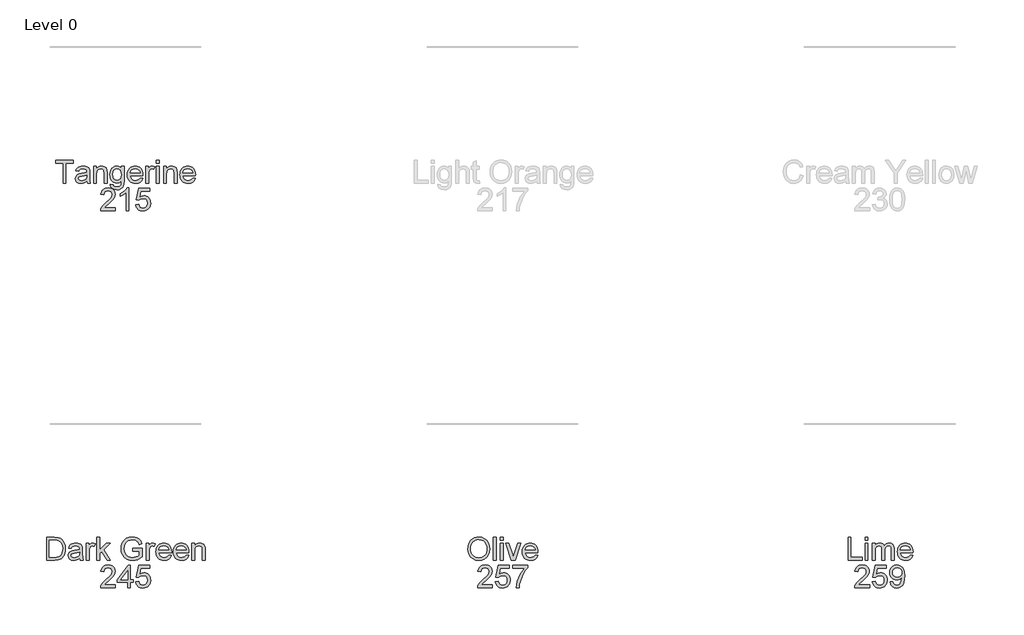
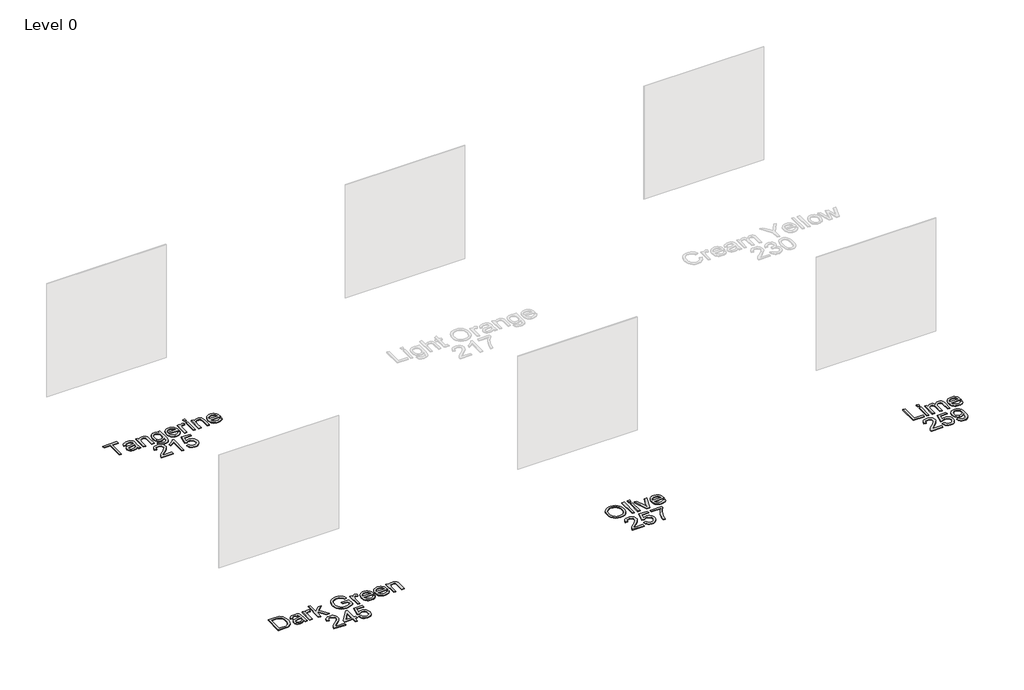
# One storey, part 10 of 15: 4 proxies.
"""IFC4 building model written with IfcOpenShell, lengths in millimetres."""

from ifc_helpers import new_model, si_unit, origin, origin_with_axes, place, context, project, spatial, polyline, outline, extrude, element, save

model = new_model("IFC4")

# Units and contexts
model_context = context("Model", 3, world=origin())
ifc_project = project(units=[si_unit("LENGTHUNIT", "METRE", prefix="MILLI")], contexts=[model_context])

# Site, building, storey
site = spatial("IfcSite", under=ifc_project)
building = spatial("IfcBuilding", under=site)
storey = spatial("IfcBuildingStorey", under=building, Name="Level 0", Elevation=0.0)

# Proxies
placement = place(None, origin())
element("IfcBuildingElementProxy", 1, Name="300mm Arial", ObjectType="300mm Arial", at=placement, inside=storey, context=model_context, shape_type="SweptSolid", body=[
    extrude(outline(polyline([(10130.2507748, -27011.9454346), (10130.2507748, -26710.5765041), (10167.9218911, -26710.5765041), (10167.9218911, -26974.2743182), (10318.6063563, -26974.2743182), (10318.6063563, -27011.9454346), (10130.2507748, -27011.9454346)])), origin_with_axes(), (0.0, 0.0, 1.0), 10.0),
    extrude(outline(polyline([(10356.2774726, -27011.9454346), (10356.2774726, -26790.6276263), (10393.9485889, -26790.6276263), (10393.9485889, -27011.9454346), (10356.2774726, -27011.9454346)])), origin_with_axes(), (0.0, 0.0, 1.0), 10.0),
    extrude(outline(polyline([(10356.2774726, -26748.2476204), (10356.2774726, -26710.5765041), (10393.9485889, -26710.5765041), (10393.9485889, -26748.2476204), (10356.2774726, -26748.2476204)])), origin_with_axes(), (0.0, 0.0, 1.0), 10.0),
    extrude(outline(polyline([(10450.4552634, -27011.9454346), (10450.4552634, -26790.6276263), (10488.1263797, -26790.6276263), (10488.1263797, -26827.0479438), (10499.4571451, -26810.31851), (10514.0252722, -26797.212714), (10531.33412, -26788.742231), (10550.8870481, -26785.9187367), (10571.8379277, -26788.7974133), (10588.6317408, -26797.4334432), (10601.1765168, -26811.2566091), (10609.3802853, -26829.6966941), (10623.1114808, -26810.5438378), (10638.7740567, -26796.8632261), (10656.3680131, -26788.6548591), (10675.89335, -26785.9187367), (10704.2110666, -26790.4712764), (10725.1527492, -26804.1288955), (10738.0929984, -26827.2594759), (10742.4064148, -26860.2308997), (10742.4064148, -27011.9454346), (10704.7352985, -27011.9454346), (10704.7352985, -26876.4177075), (10701.2404195, -26844.9637969), (10696.3291949, -26836.2909789), (10688.5852789, -26829.4759649), (10678.6248738, -26825.061381), (10667.0641821, -26823.589853), (10646.6559285, -26827.3606435), (10630.0184652, -26838.6730148), (10618.9544142, -26858.2995193), (10615.2663972, -26887.012709), (10615.2663972, -27011.9454346), (10577.5952809, -27011.9454346), (10577.5952809, -26872.2238528), (10575.4155801, -26850.9234853), (10568.8764776, -26835.7299589), (10557.3709682, -26826.6248795), (10540.2920466, -26823.589853), (10525.7791019, -26825.613204), (10512.4065914, -26831.6832569), (10501.3701315, -26841.652859), (10493.8653388, -26855.3748574), (10489.5611195, -26874.4127507), (10488.1263797, -26900.3300372), (10488.1263797, -27011.9454346), (10450.4552634, -27011.9454346)])), origin_with_axes(), (0.0, 0.0, 1.0), 10.0),
    extrude(outline(polyline([(10953.8649856, -26946.020981), (10990.8003379, -26950.7298706), (10977.4922067, -26978.5601435), (10956.2562186, -26999.3638703), (10927.57062, -27012.3317106), (10891.9136576, -27016.6543241), (10868.5393553, -27014.7896222), (10847.7126359, -27009.1955166), (10829.4334992, -26999.8720073), (10813.7019454, -26986.8190943), (10801.0514033, -26970.400061), (10792.0153018, -26950.9781909), (10786.5936409, -26928.553484), (10784.7864206, -26903.1259404), (10786.612035, -26876.8361733), (10792.0888782, -26853.6642061), (10801.2169502, -26833.6100389), (10813.996251, -26816.6736715), (10829.6864181, -26803.2183875), (10847.547089, -26793.6074704), (10867.5782636, -26787.8409201), (10889.779942, -26785.9187367), (10911.2665498, -26787.8363216), (10930.6976169, -26793.5890763), (10948.0731434, -26803.1770008), (10963.3931293, -26816.6000951), (10975.8988178, -26833.4996743), (10984.8314525, -26853.5170533), (10990.1910334, -26876.6522323), (10991.9775603, -26902.9052112), (10991.7568311, -26913.0587542), (10822.4575369, -26913.0587542), (10828.9782453, -26941.2569092), (10844.1257864, -26961.9870596), (10865.987174, -26974.7341707), (10892.6494216, -26978.9832078), (10912.6989903, -26977.0150391), (10929.5847739, -26971.1105331), (10943.3067723, -26960.9018077), (10953.8649856, -26946.020981)]), holes=[polyline([(10822.4575369, -26875.3876379), (10954.306444, -26875.3876379), (10949.2112784, -26855.485222), (10939.2232822, -26841.2481888), (10917.2607271, -26828.004437), (10889.6327892, -26823.589853), (10864.2397345, -26827.1123231), (10843.2428696, -26837.6797334), (10828.6471515, -26854.1516498), (10822.4575369, -26875.3876379)])]), origin_with_axes(), (0.0, 0.0, 1.0), 10.0),
    extrude(outline(polyline([(10415.1385919, -27340.1987718), (10415.1385919, -27377.8698881), (10217.3652312, -27377.8698881), (10221.4119332, -27351.8974192), (10230.7009536, -27331.5995301), (10244.2941933, -27311.9086464), (10263.9574859, -27291.2980576), (10291.4566651, -27268.2410535), (10332.1076255, -27232.1334357), (10356.4982018, -27205.4803851), (10368.69349, -27183.8489238), (10372.758586, -27162.8060737), (10368.9234162, -27143.9429244), (10357.4179068, -27128.2619544), (10339.7319799, -27117.694544), (10317.3555575, -27114.1720739), (10293.8570951, -27117.6117706), (10275.6009511, -27127.9308606), (10263.8195302, -27144.3200034), (10259.7452371, -27165.9698589), (10222.0741208, -27161.2609693), (10231.2067913, -27124.8222577), (10239.7531499, -27110.2863204), (10250.9528574, -27098.2059954), (10264.5483964, -27088.7100414), (10280.2822495, -27081.9272171), (10318.1648979, -27076.5009576), (10338.3547217, -27078.0092738), (10356.3234579, -27082.5342224), (10372.0711065, -27090.0758033), (10385.5976676, -27100.6340165), (10396.4616828, -27113.4271129), (10404.2216936, -27127.6733432), (10408.8777001, -27143.3727073), (10410.4297023, -27160.5252053), (10408.7558392, -27178.5422261), (10403.73425, -27196.2465471), (10394.8223087, -27214.2543707), (10381.4773893, -27233.1818994), (10360.2046129, -27255.7790509), (10327.5091006, -27284.7957433), (10284.1726016, -27321.0321198), (10267.1764534, -27340.1987718), (10415.1385919, -27340.1987718)])), origin_with_axes(), (0.0, 0.0, 1.0), 10.0),
    extrude(outline(polyline([(10452.8097082, -27297.8187659), (10490.4808245, -27293.1098764), (10497.397006, -27315.7254221), (10509.4635354, -27331.9214269), (10526.6252305, -27341.6611027), (10548.8269089, -27344.9076613), (10575.8294473, -27340.3919098), (10596.0629571, -27326.8446554), (10608.6997036, -27305.8293964), (10612.9119525, -27278.9096314), (10608.9664181, -27253.5625619), (10597.1298149, -27234.1751808), (10577.3101724, -27221.869528), (10549.4155201, -27217.7676438), (10531.140982, -27219.4047187), (10516.3429287, -27224.3159433), (10495.189714, -27241.3120915), (10457.5185977, -27236.6032019), (10490.4808245, -27081.2098472), (10636.4564002, -27081.2098472), (10636.4564002, -27118.8809635), (10520.9414537, -27118.8809635), (10504.8282223, -27201.8751416), (10531.7387902, -27185.541181), (10559.9369452, -27180.0965275), (10578.2827604, -27181.7841861), (10595.134055, -27186.8471621), (10610.4908291, -27195.2854554), (10624.3530825, -27207.0990659), (10635.8287015, -27221.5660254), (10644.0255722, -27237.9643653), (10648.9436946, -27256.2940857), (10650.5830688, -27276.5551866), (10644.6785627, -27314.2263029), (10637.2979302, -27331.020116), (10626.9650447, -27346.4527657), (10611.3116658, -27362.2578959), (10593.0463247, -27373.5472746), (10572.1690215, -27380.3209019), (10548.6797561, -27382.5787776), (10511.6800244, -27376.7754392), (10496.0013537, -27369.5212661), (10482.2034796, -27359.3654237), (10470.7232621, -27346.8137499), (10461.997561, -27332.3720823), (10452.8097082, -27297.8187659)])), origin_with_axes(), (0.0, 0.0, 1.0), 10.0),
    extrude(outline(polyline([(10688.2541851, -27302.5276555), (10725.9253014, -27297.8187659), (10732.3632363, -27319.2019069), (10742.8478732, -27333.7608369), (10757.1216946, -27342.1209552), (10774.9271831, -27344.9076613), (10790.9024588, -27343.1142366), (10805.4246005, -27337.7339624), (10817.49113, -27329.35545), (10826.0995687, -27318.5673105), (10838.4236155, -27285.8258129), (10843.868269, -27242.1214319), (10843.6475398, -27234.763792), (10830.5969261, -27250.6930824), (10813.5180044, -27263.3114348), (10793.6431796, -27271.5335974), (10772.2048564, -27274.2743182), (10754.3096966, -27272.6004552), (10737.8538751, -27267.5788659), (10722.8373919, -27259.2095505), (10709.260247, -27247.492509), (10698.0099557, -27233.0393451), (10689.9740334, -27216.4616627), (10685.15248, -27197.7594618), (10683.5452955, -27176.9327423), (10685.2306549, -27155.4116456), (10690.2867331, -27136.0978409), (10698.71353, -27118.9913281), (10710.5110458, -27104.0921073), (10724.8469473, -27092.0209793), (10740.8889015, -27083.398745), (10758.6369085, -27078.2254045), (10778.0909683, -27076.5009576), (10806.1879557, -27080.437295), (10831.7649514, -27092.246307), (10853.1572894, -27111.3393826), (10868.7003037, -27137.1279104), (10878.164068, -27172.7756758), (10881.3186561, -27221.4464637), (10878.1732651, -27273.0511106), (10868.7370919, -27312.9387159), (10853.0929101, -27342.9119015), (10831.323493, -27364.7732891), (10804.3669398, -27378.1274055), (10773.1613496, -27382.5787776), (10740.9532809, -27377.3272621), (10715.2567235, -27361.5727157), (10697.2856881, -27336.3084197), (10688.2541851, -27302.5276555)]), holes=[polyline([(10843.6475398, -27176.0498255), (10839.5824438, -27150.5188151), (10827.3871556, -27130.8739165), (10808.459627, -27118.3475346), (10784.1978094, -27114.1720739), (10759.0346809, -27118.6694313), (10738.8747476, -27132.1615035), (10725.6309958, -27152.8088805), (10721.2164118, -27178.7721523), (10725.3918725, -27202.0498855), (10737.9182544, -27220.5267587), (10757.5815471, -27232.5840911), (10783.1677398, -27236.6032019), (10807.2364194, -27232.5840911), (10826.6146035, -27220.5267587), (10839.3893057, -27201.3693039), (10843.6475398, -27176.0498255)])]), origin_with_axes(), (0.0, 0.0, 1.0), 10.0),
])
element("IfcBuildingElementProxy", 2, Name="300mm Arial", ObjectType="300mm Arial", at=placement, inside=storey, context=model_context, shape_type="SweptSolid", body=[
    extrude(outline(polyline([(-279.422615, -22011.9454346), (-279.422615, -21748.2476204), (-378.3092953, -21748.2476204), (-378.3092953, -21710.5765041), (-142.8648184, -21710.5765041), (-142.8648184, -21748.2476204), (-241.7514987, -21748.2476204), (-241.7514987, -22011.9454346), (-279.422615, -22011.9454346)])), origin_with_axes(), (0.0, 0.0, 1.0), 10.0),
    extrude(outline(polyline([(36.072984, -21983.6920973), (18.0743574, -21999.124747), (-0.4576981, -22009.2231078), (-19.9462468, -22014.79652), (-40.814353, -22016.6543241), (-72.2958547, -22012.1845578), (-95.5184057, -21998.7752591), (-109.8382123, -21978.4129907), (-114.6114812, -21953.0843153), (-112.8088594, -21937.4677246), (-107.4009941, -21923.2858737), (-99.0592699, -21911.1457679), (-88.4550713, -21901.6544124), (-62.0779323, -21889.2935774), (-29.4835875, -21883.6281946), (9.0336574, -21877.6685063), (35.8522548, -21870.6787484), (36.072984, -21862.2910389), (33.479416, -21845.4788317), (25.6987118, -21834.4791601), (8.2978934, -21826.3121798), (-15.9455301, -21823.589853), (-38.3863318, -21825.4016718), (-54.0581048, -21830.8371283), (-64.7450768, -21840.8895038), (-72.2314754, -21856.5520798), (-109.9025917, -21851.8431903), (-103.3634892, -21831.2417985), (-93.6054193, -21815.0549907), (-79.717874, -21802.6757616), (-60.7903453, -21793.4971058), (-37.6413708, -21787.813329), (-11.0894878, -21785.9187367), (14.3771434, -21787.5925998), (34.5646678, -21792.614189), (49.7857854, -21800.164967), (60.3531957, -21809.4263962), (67.3613477, -21820.8767233), (71.9046904, -21834.9941949), (73.7441003, -21867.9564216), (73.7441003, -21914.8245878), (75.6570867, -21980.2707948), (83.1618794, -22011.9454346), (45.4907631, -22011.9454346), (36.072984, -21983.6920973)]), holes=[polyline([(36.072984, -21908.3498647), (-24.7011216, -21919.9013594), (-57.1115254, -21926.0082005), (-71.790017, -21935.9410143), (-76.9403649, -21950.435565), (-74.1352647, -21961.6375717), (-65.719964, -21970.8162275), (-51.878404, -21976.9414627), (-32.7945255, -21978.9832078), (-12.5610157, -21976.7299306), (5.3180492, -21969.9700989), (19.8125998, -21960.0096939), (29.8925665, -21948.1546966), (34.3623327, -21935.9410143), (35.8522548, -21919.0184426), (36.072984, -21908.3498647)])]), origin_with_axes(), (0.0, 0.0, 1.0), 10.0),
    extrude(outline(polyline([(125.5418852, -22011.9454346), (125.5418852, -21790.6276263), (163.2130016, -21790.6276263), (163.2130016, -21821.5297138), (176.3004035, -21805.9499114), (192.0181618, -21794.821481), (210.3662763, -21788.1444228), (231.3447471, -21785.9187367), (249.9135908, -21787.7121614), (266.918936, -21793.0924356), (281.1007869, -21801.3881746), (291.1991477, -21811.9279938), (302.4931249, -21839.629508), (304.4796877, -21876.0498255), (304.4796877, -22011.9454346), (266.8085714, -22011.9454346), (266.8085714, -21881.1265971), (262.4675639, -21847.7964883), (256.4618903, -21837.8728715), (247.1268847, -21830.1749407), (235.1615228, -21825.2361249), (221.2647804, -21823.589853), (199.2010577, -21827.2870671), (180.3930907, -21838.3787092), (172.8768017, -21847.4332048), (167.5080238, -21859.8078354), (163.2130016, -21894.5175017), (163.2130016, -22011.9454346), (125.5418852, -22011.9454346)])), origin_with_axes(), (0.0, 0.0, 1.0), 10.0),
    extrude(outline(polyline([(346.8596935, -22030.7809927), (384.5308099, -22035.4898822), (388.6878764, -22047.2621061), (396.7444921, -22055.35551), (412.581812, -22061.6462921), (433.3119624, -22063.7432195), (455.4216703, -22061.3703806), (471.8659955, -22054.251864), (483.2703374, -22042.8475221), (490.2600953, -22027.6172075), (492.8352692, -21983.6920973), (480.2996902, -21996.0529324), (466.3109774, -22004.8821002), (450.8691306, -22010.179601), (433.97415, -22011.9454346), (413.3198752, -22009.8898939), (395.1350084, -22003.723272), (379.4195494, -21993.4455687), (366.1734983, -21979.0567842), (355.6635695, -21961.7939216), (348.1564776, -21942.8939841), (343.6522224, -21922.3569717), (342.150804, -21900.1828844), (344.8455396, -21869.7682405), (352.9297465, -21841.8000118), (366.118316, -21818.0992142), (384.1261397, -21800.4868637), (406.3370151, -21789.5607685), (432.13474, -21785.9187367), (449.7516891, -21787.9788759), (465.7407603, -21794.1592934), (480.1019537, -21804.4599893), (492.8352692, -21818.8809635), (492.8352692, -21790.6276263), (530.5063855, -21790.6276263), (530.5063855, -21981.7055345), (527.9312116, -22025.8237828), (520.2056897, -22054.8772634), (506.8975585, -22074.1450829), (487.5745567, -22088.9063479), (462.6597486, -22098.2873388), (432.5761984, -22101.4143358), (397.5262413, -22097.0089489), (369.9258946, -22083.7927882), (359.530929, -22073.8714707), (352.2215736, -22061.7290655), (347.9978285, -22047.3655729), (346.8596935, -22030.7809927)]), holes=[polyline([(379.8219203, -21897.6077105), (383.8410311, -21932.1610268), (395.8983635, -21955.9170067), (414.0257488, -21969.6849904), (436.2550184, -21974.2743182), (458.318741, -21969.7125815), (476.5380968, -21956.0273713), (488.7609761, -21932.5748941), (492.8352692, -21898.7113564), (488.6414145, -21866.0526323), (476.0598503, -21842.5357758), (457.57378, -21828.3263337), (435.6664072, -21823.589853), (414.1545075, -21828.2527573), (396.1190927, -21842.2414702), (383.8962134, -21865.4088388), (379.8219203, -21897.6077105)])]), origin_with_axes(), (0.0, 0.0, 1.0), 10.0),
    extrude(outline(polyline([(741.9649564, -21946.020981), (778.9003087, -21950.7298706), (765.5921775, -21978.5601435), (744.3561893, -21999.3638703), (715.6705908, -22012.3317106), (680.0136284, -22016.6543241), (656.6393261, -22014.7896222), (635.8126067, -22009.1955166), (617.53347, -21999.8720073), (601.8019162, -21986.8190943), (589.1513741, -21970.400061), (580.1152726, -21950.9781909), (574.6936117, -21928.553484), (572.8863914, -21903.1259404), (574.7120058, -21876.8361733), (580.188849, -21853.6642061), (589.316921, -21833.6100389), (602.0962218, -21816.6736715), (617.7863889, -21803.2183875), (635.6470598, -21793.6074704), (655.6782344, -21787.8409201), (677.8799128, -21785.9187367), (699.3665206, -21787.8363216), (718.7975877, -21793.5890763), (736.1731142, -21803.1770008), (751.4931, -21816.6000951), (763.9987886, -21833.4996743), (772.9314233, -21853.5170533), (778.2910041, -21876.6522323), (780.0775311, -21902.9052112), (779.8568019, -21913.0587542), (610.5575077, -21913.0587542), (617.0782161, -21941.2569092), (632.2257572, -21961.9870596), (654.0871448, -21974.7341707), (680.7493924, -21978.9832078), (700.7989611, -21977.0150391), (717.6847447, -21971.1105331), (731.4067431, -21960.9018077), (741.9649564, -21946.020981)]), holes=[polyline([(610.5575077, -21875.3876379), (742.4064148, -21875.3876379), (737.3112491, -21855.485222), (727.323253, -21841.2481888), (705.3606978, -21828.004437), (677.73276, -21823.589853), (652.3397053, -21827.1123231), (631.3428404, -21837.6797334), (616.7471223, -21854.1516498), (610.5575077, -21875.3876379)])]), origin_with_axes(), (0.0, 0.0, 1.0), 10.0),
    extrude(outline(polyline([(817.7486474, -22011.9454346), (817.7486474, -21790.6276263), (850.7108741, -21790.6276263), (850.7108741, -21823.3691238), (862.8877682, -21804.3864129), (874.108169, -21793.2028002), (885.3653581, -21787.7397526), (897.6526167, -21785.9187367), (916.4145985, -21788.8250045), (935.4708858, -21797.5438078), (922.8893216, -21831.3153749), (909.6455698, -21825.5212335), (896.4018179, -21823.589853), (885.1538259, -21825.4476571), (875.1014504, -21831.0210693), (866.9804554, -21839.8870254), (861.5266048, -21851.6224611), (856.946474, -21872.6653112), (855.4197637, -21895.6211477), (855.4197637, -22011.9454346), (817.7486474, -22011.9454346)])), origin_with_axes(), (0.0, 0.0, 1.0), 10.0),
    extrude(outline(polyline([(959.0153335, -21748.2476204), (959.0153335, -21710.5765041), (996.6864498, -21710.5765041), (996.6864498, -21748.2476204), (959.0153335, -21748.2476204)])), origin_with_axes(), (0.0, 0.0, 1.0), 10.0),
    extrude(outline(polyline([(959.0153335, -22011.9454346), (959.0153335, -21790.6276263), (996.6864498, -21790.6276263), (996.6864498, -22011.9454346), (959.0153335, -22011.9454346)])), origin_with_axes(), (0.0, 0.0, 1.0), 10.0),
    extrude(outline(polyline([(1053.1931243, -22011.9454346), (1053.1931243, -21790.6276263), (1090.8642406, -21790.6276263), (1090.8642406, -21821.5297138), (1103.9516426, -21805.9499114), (1119.6694008, -21794.821481), (1138.0175153, -21788.1444228), (1158.9959861, -21785.9187367), (1177.5648298, -21787.7121614), (1194.570175, -21793.0924356), (1208.7520259, -21801.3881746), (1218.8503867, -21811.9279938), (1230.144364, -21839.629508), (1232.1309267, -21876.0498255), (1232.1309267, -22011.9454346), (1194.4598104, -22011.9454346), (1194.4598104, -21881.1265971), (1190.1188029, -21847.7964883), (1184.1131293, -21837.8728715), (1174.7781237, -21830.1749407), (1162.8127618, -21825.2361249), (1148.9160194, -21823.589853), (1126.8522968, -21827.2870671), (1108.0443298, -21838.3787092), (1100.5280408, -21847.4332048), (1095.1592629, -21859.8078354), (1090.8642406, -21894.5175017), (1090.8642406, -22011.9454346), (1053.1931243, -22011.9454346)])), origin_with_axes(), (0.0, 0.0, 1.0), 10.0),
    extrude(outline(polyline([(1438.880608, -21946.020981), (1475.8159603, -21950.7298706), (1462.5078292, -21978.5601435), (1441.271841, -21999.3638703), (1412.5862424, -22012.3317106), (1376.92928, -22016.6543241), (1353.5549778, -22014.7896222), (1332.7282583, -22009.1955166), (1314.4491217, -21999.8720073), (1298.7175679, -21986.8190943), (1286.0670258, -21970.400061), (1277.0309243, -21950.9781909), (1271.6092633, -21928.553484), (1269.802043, -21903.1259404), (1271.6276574, -21876.8361733), (1277.1045007, -21853.6642061), (1286.2325727, -21833.6100389), (1299.0118735, -21816.6736715), (1314.7020406, -21803.2183875), (1332.5627114, -21793.6074704), (1352.5938861, -21787.8409201), (1374.7955645, -21785.9187367), (1396.2821723, -21787.8363216), (1415.7132394, -21793.5890763), (1433.0887659, -21803.1770008), (1448.4087517, -21816.6000951), (1460.9144403, -21833.4996743), (1469.847075, -21853.5170533), (1475.2066558, -21876.6522323), (1476.9931827, -21902.9052112), (1476.7724535, -21913.0587542), (1307.4731594, -21913.0587542), (1313.9938677, -21941.2569092), (1329.1414089, -21961.9870596), (1351.0027964, -21974.7341707), (1377.665044, -21978.9832078), (1397.7146128, -21977.0150391), (1414.6003963, -21971.1105331), (1428.3223948, -21960.9018077), (1438.880608, -21946.020981)]), holes=[polyline([(1307.4731594, -21875.3876379), (1439.3220664, -21875.3876379), (1434.2269008, -21855.485222), (1424.2389046, -21841.2481888), (1402.2763495, -21828.004437), (1374.6484117, -21823.589853), (1349.255357, -21827.1123231), (1328.2584921, -21837.6797334), (1313.6627739, -21854.1516498), (1307.4731594, -21875.3876379)])]), origin_with_axes(), (0.0, 0.0, 1.0), 10.0),
    extrude(outline(polyline([(415.1385919, -22340.1987718), (415.1385919, -22377.8698881), (217.3652312, -22377.8698881), (221.4119332, -22351.8974192), (230.7009536, -22331.5995301), (244.2941933, -22311.9086464), (263.9574859, -22291.2980576), (291.4566651, -22268.2410535), (332.1076255, -22232.1334357), (356.4982018, -22205.4803851), (368.69349, -22183.8489238), (372.758586, -22162.8060737), (368.9234162, -22143.9429244), (357.4179068, -22128.2619544), (339.7319799, -22117.694544), (317.3555575, -22114.1720739), (293.8570951, -22117.6117706), (275.6009511, -22127.9308606), (263.8195302, -22144.3200034), (259.7452371, -22165.9698589), (222.0741208, -22161.2609693), (231.2067913, -22124.8222577), (239.7531499, -22110.2863204), (250.9528574, -22098.2059954), (264.5483964, -22088.7100414), (280.2822495, -22081.9272171), (318.1648979, -22076.5009576), (338.3547217, -22078.0092738), (356.3234579, -22082.5342224), (372.0711065, -22090.0758033), (385.5976676, -22100.6340165), (396.4616828, -22113.4271129), (404.2216936, -22127.6733432), (408.8777001, -22143.3727073), (410.4297023, -22160.5252053), (408.7558392, -22178.5422261), (403.73425, -22196.2465471), (394.8223087, -22214.2543707), (381.4773893, -22233.1818994), (360.2046129, -22255.7790509), (327.5091006, -22284.7957433), (284.1726016, -22321.0321198), (267.1764534, -22340.1987718), (415.1385919, -22340.1987718)])), origin_with_axes(), (0.0, 0.0, 1.0), 10.0),
    extrude(outline(polyline([(594.0763943, -22377.8698881), (556.405278, -22377.8698881), (556.405278, -22143.0140224), (520.7207245, -22168.4346682), (481.0630454, -22187.4541674), (481.0630454, -22151.8431903), (510.6499548, -22135.748353), (536.2821329, -22116.6000951), (556.4880514, -22096.2378267), (569.7961826, -22076.5009576), (594.0763943, -22076.5009576), (594.0763943, -22377.8698881)])), origin_with_axes(), (0.0, 0.0, 1.0), 10.0),
    extrude(outline(polyline([(683.5452955, -22297.8187659), (721.2164118, -22293.1098764), (728.1325933, -22315.7254221), (740.1991228, -22331.9214269), (757.3608179, -22341.6611027), (779.5624963, -22344.9076613), (806.5650347, -22340.3919098), (826.7985445, -22326.8446554), (839.435291, -22305.8293964), (843.6475398, -22278.9096314), (839.7020054, -22253.5625619), (827.8654022, -22234.1751808), (808.0457598, -22221.869528), (780.1511075, -22217.7676438), (761.8765694, -22219.4047187), (747.0785161, -22224.3159433), (725.9253014, -22241.3120915), (688.2541851, -22236.6032019), (721.2164118, -22081.2098472), (867.1919875, -22081.2098472), (867.1919875, -22118.8809635), (751.677041, -22118.8809635), (735.5638097, -22201.8751416), (762.4743776, -22185.541181), (790.6725325, -22180.0965275), (809.0183478, -22181.7841861), (825.8696424, -22186.8471621), (841.2264165, -22195.2854554), (855.0886699, -22207.0990659), (866.5642889, -22221.5660254), (874.7611596, -22237.9643653), (879.679282, -22256.2940857), (881.3186561, -22276.5551866), (875.4141501, -22314.2263029), (868.0335176, -22331.020116), (857.700632, -22346.4527657), (842.0472532, -22362.2578959), (823.7819121, -22373.5472746), (802.9046089, -22380.3209019), (779.4153435, -22382.5787776), (742.4156118, -22376.7754392), (726.736941, -22369.5212661), (712.9390669, -22359.3654237), (701.4588494, -22346.8137499), (692.7331484, -22332.3720823), (683.5452955, -22297.8187659)])), origin_with_axes(), (0.0, 0.0, 1.0), 10.0),
])
element("IfcBuildingElementProxy", 3, Name="300mm Arial", ObjectType="300mm Arial", at=placement, inside=storey, context=model_context, shape_type="SweptSolid", body=[
    extrude(outline(polyline([(-498.3859786, -27011.9454346), (-498.3859786, -26710.5765041), (-394.4225267, -26710.5765041), (-340.638179, -26714.9175116), (-316.6154848, -26723.286827), (-296.3451868, -26736.4753966), (-275.5046718, -26759.4312331), (-260.6606333, -26787.9788759), (-251.7762831, -26821.566502), (-248.814833, -26859.6422885), (-250.8197899, -26891.988313), (-256.8346605, -26920.4531824), (-265.9949222, -26944.6874088), (-277.4360523, -26964.3415044), (-290.6062277, -26979.8569275), (-304.9536255, -26991.6751366), (-321.4255418, -27000.4399252), (-340.9692728, -27006.7950866), (-389.4193316, -27011.9454346), (-498.3859786, -27011.9454346)]), holes=[polyline([(-460.7148623, -26974.2743182), (-394.0546447, -26974.2743182), (-366.4818892, -26972.9131549), (-345.5677978, -26968.8296647), (-329.7856602, -26962.2629711), (-317.6087661, -26953.4521973), (-304.5213642, -26937.1458279), (-294.6897178, -26916.0385984), (-288.5368915, -26890.0385384), (-286.4859493, -26859.0536774), (-290.5050601, -26817.9980467), (-302.5623925, -26787.6845703), (-320.3770782, -26766.8624494), (-341.6682486, -26754.2808851), (-363.3364981, -26749.7559366), (-395.0847143, -26748.2476204), (-460.7148623, -26748.2476204), (-460.7148623, -26974.2743182)])]), origin_with_axes(), (0.0, 0.0, 1.0), 10.0),
    extrude(outline(polyline([(-60.4592515, -26983.6920973), (-78.4578781, -26999.124747), (-96.9899336, -27009.2231078), (-116.4784823, -27014.79652), (-137.3465885, -27016.6543241), (-168.8280902, -27012.1845578), (-192.0506412, -26998.7752591), (-206.3704478, -26978.4129907), (-211.1437167, -26953.0843153), (-209.341095, -26937.4677246), (-203.9332296, -26923.2858737), (-195.5915054, -26911.1457679), (-184.9873069, -26901.6544124), (-158.6101678, -26889.2935774), (-126.0158231, -26883.6281946), (-87.4985782, -26877.6685063), (-60.6799807, -26870.6787484), (-60.4592515, -26862.2910389), (-63.0528196, -26845.4788317), (-70.8335238, -26834.4791601), (-88.2343421, -26826.3121798), (-112.4777656, -26823.589853), (-134.9185673, -26825.4016718), (-150.5903403, -26830.8371283), (-161.2773123, -26840.8895038), (-168.7637109, -26856.5520798), (-206.4348272, -26851.8431903), (-199.8957247, -26831.2417985), (-190.1376548, -26815.0549907), (-176.2501095, -26802.6757616), (-157.3225808, -26793.4971058), (-134.1736063, -26787.813329), (-107.6217233, -26785.9187367), (-82.1550922, -26787.5925998), (-61.9675677, -26792.614189), (-46.7464501, -26800.164967), (-36.1790398, -26809.4263962), (-29.1708878, -26820.8767233), (-24.6275452, -26834.9941949), (-22.7881352, -26867.9564216), (-22.7881352, -26914.8245878), (-20.8751488, -26980.2707948), (-13.3703561, -27011.9454346), (-51.0414724, -27011.9454346), (-60.4592515, -26983.6920973)]), holes=[polyline([(-60.4592515, -26908.3498647), (-121.2333571, -26919.9013594), (-153.6437609, -26926.0082005), (-168.3222525, -26935.9410143), (-173.4726004, -26950.435565), (-170.6675002, -26961.6375717), (-162.2521996, -26970.8162275), (-148.4106395, -26976.9414627), (-129.326761, -26978.9832078), (-109.0932513, -26976.7299306), (-91.2141863, -26969.9700989), (-76.7196357, -26960.0096939), (-66.639669, -26948.1546966), (-62.1699028, -26935.9410143), (-60.6799807, -26919.0184426), (-60.4592515, -26908.3498647)])]), origin_with_axes(), (0.0, 0.0, 1.0), 10.0),
    extrude(outline(polyline([(29.0096497, -27011.9454346), (29.0096497, -26790.6276263), (61.9718765, -26790.6276263), (61.9718765, -26823.3691238), (74.1487705, -26804.3864129), (85.3691714, -26793.2028002), (96.6263604, -26787.7397526), (108.9136191, -26785.9187367), (127.6756008, -26788.8250045), (146.7318882, -26797.5438078), (134.1503239, -26831.3153749), (120.9065721, -26825.5212335), (107.6628203, -26823.589853), (96.4148283, -26825.4476571), (86.3624528, -26831.0210693), (78.2414577, -26839.8870254), (72.7876071, -26851.6224611), (68.2074763, -26872.6653112), (66.680766, -26895.6211477), (66.680766, -27011.9454346), (29.0096497, -27011.9454346)])), origin_with_axes(), (0.0, 0.0, 1.0), 10.0),
    extrude(outline(polyline([(170.2763359, -27011.9454346), (170.2763359, -26710.5765041), (207.9474522, -26710.5765041), (207.9474522, -26872.5181584), (292.4131583, -26790.6276263), (344.5052488, -26790.6276263), (259.0094731, -26873.548228), (349.2141383, -27011.9454346), (305.2154517, -27011.9454346), (232.0069347, -26899.741426), (207.9474522, -26923.0651445), (207.9474522, -27011.9454346), (170.2763359, -27011.9454346)])), origin_with_axes(), (0.0, 0.0, 1.0), 10.0),
    extrude(outline(polyline([(645.8741792, -26894.2231961), (645.8741792, -26856.5520798), (768.3053072, -26856.5520798), (768.3053072, -26969.1975467), (738.5528509, -26989.8909089), (707.8622954, -27004.7349474), (676.3072173, -27013.6744799), (643.9611929, -27016.6543241), (601.7007487, -27011.9178434), (563.5054005, -26997.7084013), (531.7755784, -26974.5226386), (508.9117124, -26942.8571959), (495.0885465, -26904.8733799), (490.4808245, -26862.7324973), (495.0701524, -26820.2881121), (508.838136, -26780.805177), (531.2145584, -26747.6866004), (561.6292023, -26724.3352907), (598.6749192, -26710.4845336), (640.9445605, -26705.8676146), (671.9754068, -26708.5439561), (699.8792561, -26716.5729806), (723.3777186, -26729.3752741), (741.1924042, -26746.3714222), (754.3717767, -26768.3799626), (763.9642997, -26796.2194326), (729.2362393, -26806.0050937), (721.4831263, -26786.148663), (712.0561502, -26771.1666687), (699.5849505, -26759.8726915), (682.6991669, -26751.0803118), (662.5668248, -26745.4241261), (640.3559493, -26743.5387309), (614.3558893, -26745.5712789), (592.1266197, -26751.668923), (573.7509141, -26761.0683079), (559.3115458, -26773.0060787), (539.9241646, -26802.0319681), (531.0949967, -26830.4692463), (528.1519408, -26861.1873929), (531.692805, -26897.2122373), (542.3153976, -26926.8543291), (559.6978219, -26949.9021361), (583.518181, -26966.1441262), (611.3944392, -26975.7734374), (640.9445605, -26978.9832078), (667.036591, -26976.5643837), (692.484828, -26969.3079113), (714.5853389, -26959.3107181), (730.6341909, -26948.6697314), (730.6341909, -26894.2231961), (645.8741792, -26894.2231961)])), origin_with_axes(), (0.0, 0.0, 1.0), 10.0),
    extrude(outline(polyline([(824.8119817, -27011.9454346), (824.8119817, -26790.6276263), (857.7742084, -26790.6276263), (857.7742084, -26823.3691238), (869.9511025, -26804.3864129), (881.1715033, -26793.2028002), (892.4286924, -26787.7397526), (904.715951, -26785.9187367), (923.4779328, -26788.8250045), (942.5342201, -26797.5438078), (929.9526559, -26831.3153749), (916.7089041, -26825.5212335), (903.4651522, -26823.589853), (892.2171602, -26825.4476571), (882.1647847, -26831.0210693), (874.0437897, -26839.8870254), (868.5899391, -26851.6224611), (864.0098083, -26872.6653112), (862.483098, -26895.6211477), (862.483098, -27011.9454346), (824.8119817, -27011.9454346)])), origin_with_axes(), (0.0, 0.0, 1.0), 10.0),
    extrude(outline(polyline([(1121.0305642, -26946.020981), (1157.9659165, -26950.7298706), (1144.6577853, -26978.5601435), (1123.4217972, -26999.3638703), (1094.7361986, -27012.3317106), (1059.0792362, -27016.6543241), (1035.7049339, -27014.7896222), (1014.8782145, -27009.1955166), (996.5990779, -26999.8720073), (980.867524, -26986.8190943), (968.2169819, -26970.400061), (959.1808804, -26950.9781909), (953.7592195, -26928.553484), (951.9519992, -26903.1259404), (953.7776136, -26876.8361733), (959.2544568, -26853.6642061), (968.3825288, -26833.6100389), (981.1618296, -26816.6736715), (996.8519967, -26803.2183875), (1014.7126676, -26793.6074704), (1034.7438422, -26787.8409201), (1056.9455206, -26785.9187367), (1078.4321284, -26787.8363216), (1097.8631956, -26793.5890763), (1115.238722, -26803.1770008), (1130.5587079, -26816.6000951), (1143.0643964, -26833.4996743), (1151.9970311, -26853.5170533), (1157.356612, -26876.6522323), (1159.1431389, -26902.9052112), (1158.9224097, -26913.0587542), (989.6231155, -26913.0587542), (996.1438239, -26941.2569092), (1011.291365, -26961.9870596), (1033.1527526, -26974.7341707), (1059.8150002, -26978.9832078), (1079.8645689, -26977.0150391), (1096.7503525, -26971.1105331), (1110.4723509, -26960.9018077), (1121.0305642, -26946.020981)]), holes=[polyline([(989.6231155, -26875.3876379), (1121.4720226, -26875.3876379), (1116.376857, -26855.485222), (1106.3888608, -26841.2481888), (1084.4263057, -26828.004437), (1056.7983678, -26823.589853), (1031.4053131, -26827.1123231), (1010.4084482, -26837.6797334), (995.8127301, -26854.1516498), (989.6231155, -26875.3876379)])]), origin_with_axes(), (0.0, 0.0, 1.0), 10.0),
    extrude(outline(polyline([(1351.7661516, -26946.020981), (1388.7015039, -26950.7298706), (1375.3933727, -26978.5601435), (1354.1573845, -26999.3638703), (1325.471786, -27012.3317106), (1289.8148236, -27016.6543241), (1266.4405213, -27014.7896222), (1245.6138019, -27009.1955166), (1227.3346652, -26999.8720073), (1211.6031114, -26986.8190943), (1198.9525693, -26970.400061), (1189.9164678, -26950.9781909), (1184.4948069, -26928.553484), (1182.6875866, -26903.1259404), (1184.513201, -26876.8361733), (1189.9900442, -26853.6642061), (1199.1181162, -26833.6100389), (1211.897417, -26816.6736715), (1227.5875841, -26803.2183875), (1245.448255, -26793.6074704), (1265.4794296, -26787.8409201), (1287.681108, -26785.9187367), (1309.1677158, -26787.8363216), (1328.5987829, -26793.5890763), (1345.9743094, -26803.1770008), (1361.2942952, -26816.6000951), (1373.7999838, -26833.4996743), (1382.7326185, -26853.5170533), (1388.0921993, -26876.6522323), (1389.8787263, -26902.9052112), (1389.6579971, -26913.0587542), (1220.3587029, -26913.0587542), (1226.8794113, -26941.2569092), (1242.0269524, -26961.9870596), (1263.88834, -26974.7341707), (1290.5505876, -26978.9832078), (1310.6001563, -26977.0150391), (1327.4859399, -26971.1105331), (1341.2079383, -26960.9018077), (1351.7661516, -26946.020981)]), holes=[polyline([(1220.3587029, -26875.3876379), (1352.20761, -26875.3876379), (1347.1124443, -26855.485222), (1337.1244482, -26841.2481888), (1315.1618931, -26828.004437), (1287.5339552, -26823.589853), (1262.1409005, -26827.1123231), (1241.1440356, -26837.6797334), (1226.5483175, -26854.1516498), (1220.3587029, -26875.3876379)])]), origin_with_axes(), (0.0, 0.0, 1.0), 10.0),
    extrude(outline(polyline([(1427.5498426, -27011.9454346), (1427.5498426, -26790.6276263), (1465.2209589, -26790.6276263), (1465.2209589, -26821.5297138), (1478.3083609, -26805.9499114), (1494.0261191, -26794.821481), (1512.3742336, -26788.1444228), (1533.3527044, -26785.9187367), (1551.9215481, -26787.7121614), (1568.9268933, -26793.0924356), (1583.1087442, -26801.3881746), (1593.207105, -26811.9279938), (1604.5010823, -26839.629508), (1606.487645, -26876.0498255), (1606.487645, -27011.9454346), (1568.8165287, -27011.9454346), (1568.8165287, -26881.1265971), (1564.4755212, -26847.7964883), (1558.4698476, -26837.8728715), (1549.134842, -26830.1749407), (1537.1694801, -26825.2361249), (1523.2727377, -26823.589853), (1501.2090151, -26827.2870671), (1482.4010481, -26838.3787092), (1474.884759, -26847.4332048), (1469.5159812, -26859.8078354), (1465.2209589, -26894.5175017), (1465.2209589, -27011.9454346), (1427.5498426, -27011.9454346)])), origin_with_axes(), (0.0, 0.0, 1.0), 10.0),
    extrude(outline(polyline([(415.1385919, -27340.1987718), (415.1385919, -27377.8698881), (217.3652312, -27377.8698881), (221.4119332, -27351.8974192), (230.7009536, -27331.5995301), (244.2941933, -27311.9086464), (263.9574859, -27291.2980576), (291.4566651, -27268.2410535), (332.1076255, -27232.1334357), (356.4982018, -27205.4803851), (368.69349, -27183.8489238), (372.758586, -27162.8060737), (368.9234162, -27143.9429244), (357.4179068, -27128.2619544), (339.7319799, -27117.694544), (317.3555575, -27114.1720739), (293.8570951, -27117.6117706), (275.6009511, -27127.9308606), (263.8195302, -27144.3200034), (259.7452371, -27165.9698589), (222.0741208, -27161.2609693), (231.2067913, -27124.8222577), (239.7531499, -27110.2863204), (250.9528574, -27098.2059954), (264.5483964, -27088.7100414), (280.2822495, -27081.9272171), (318.1648979, -27076.5009576), (338.3547217, -27078.0092738), (356.3234579, -27082.5342224), (372.0711065, -27090.0758033), (385.5976676, -27100.6340165), (396.4616828, -27113.4271129), (404.2216936, -27127.6733432), (408.8777001, -27143.3727073), (410.4297023, -27160.5252053), (408.7558392, -27178.5422261), (403.73425, -27196.2465471), (394.8223087, -27214.2543707), (381.4773893, -27233.1818994), (360.2046129, -27255.7790509), (327.5091006, -27284.7957433), (284.1726016, -27321.0321198), (267.1764534, -27340.1987718), (415.1385919, -27340.1987718)])), origin_with_axes(), (0.0, 0.0, 1.0), 10.0),
    extrude(outline(polyline([(575.2408362, -27377.8698881), (575.2408362, -27307.236545), (438.6830395, -27307.236545), (438.6830395, -27269.5654287), (584.6586152, -27081.2098472), (612.9119525, -27081.2098472), (612.9119525, -27269.5654287), (650.5830688, -27269.5654287), (650.5830688, -27307.236545), (612.9119525, -27307.236545), (612.9119525, -27377.8698881), (575.2408362, -27377.8698881)]), holes=[polyline([(575.2408362, -27269.5654287), (575.2408362, -27153.1675654), (485.0361709, -27269.5654287), (575.2408362, -27269.5654287)])]), origin_with_axes(), (0.0, 0.0, 1.0), 10.0),
    extrude(outline(polyline([(683.5452955, -27297.8187659), (721.2164118, -27293.1098764), (728.1325933, -27315.7254221), (740.1991228, -27331.9214269), (757.3608179, -27341.6611027), (779.5624963, -27344.9076613), (806.5650347, -27340.3919098), (826.7985445, -27326.8446554), (839.435291, -27305.8293964), (843.6475398, -27278.9096314), (839.7020054, -27253.5625619), (827.8654022, -27234.1751808), (808.0457598, -27221.869528), (780.1511075, -27217.7676438), (761.8765694, -27219.4047187), (747.0785161, -27224.3159433), (725.9253014, -27241.3120915), (688.2541851, -27236.6032019), (721.2164118, -27081.2098472), (867.1919875, -27081.2098472), (867.1919875, -27118.8809635), (751.677041, -27118.8809635), (735.5638097, -27201.8751416), (762.4743776, -27185.541181), (790.6725325, -27180.0965275), (809.0183478, -27181.7841861), (825.8696424, -27186.8471621), (841.2264165, -27195.2854554), (855.0886699, -27207.0990659), (866.5642889, -27221.5660254), (874.7611596, -27237.9643653), (879.679282, -27256.2940857), (881.3186561, -27276.5551866), (875.4141501, -27314.2263029), (868.0335176, -27331.020116), (857.700632, -27346.4527657), (842.0472532, -27362.2578959), (823.7819121, -27373.5472746), (802.9046089, -27380.3209019), (779.4153435, -27382.5787776), (742.4156118, -27376.7754392), (726.736941, -27369.5212661), (712.9390669, -27359.3654237), (701.4588494, -27346.8137499), (692.7331484, -27332.3720823), (683.5452955, -27297.8187659)])), origin_with_axes(), (0.0, 0.0, 1.0), 10.0),
])
element("IfcBuildingElementProxy", 4, Name="300mm Arial", ObjectType="300mm Arial", at=placement, inside=storey, context=model_context, shape_type="SweptSolid", body=[
    extrude(outline(polyline([(5090.2252137, -26865.2340949), (5092.7360083, -26829.8852337), (5100.2683922, -26798.5922714), (5112.8223653, -26771.3552082), (5130.3979276, -26748.174044), (5151.9420169, -26729.6649811), (5176.4015711, -26716.4442219), (5203.77659, -26708.5117664), (5234.0670738, -26705.8676146), (5273.5959942, -26710.8340215), (5309.0414244, -26725.7332423), (5338.4719841, -26749.5168133), (5359.9562926, -26781.1362708), (5373.0896798, -26819.0649045), (5377.4674755, -26861.7760041), (5372.8597536, -26905.0573209), (5359.0365876, -26943.5193834), (5336.7613328, -26975.1940232), (5306.7973443, -26998.1130715), (5271.6554167, -27012.019011), (5233.8463446, -27016.6543241), (5193.710419, -27011.5315673), (5158.0626536, -26996.163297), (5128.7056704, -26971.9382676), (5107.4420911, -26940.2452337), (5094.5294331, -26903.7789309), (5090.2252137, -26865.2340949)]), holes=[polyline([(5127.89633, -26865.6019769), (5129.779426, -26890.5765658), (5135.4287139, -26912.7460546), (5144.8441937, -26932.1104431), (5158.0258654, -26948.6697314), (5174.0494256, -26961.9318773), (5191.9905706, -26971.4048387), (5211.8493006, -26977.0886155), (5233.6256154, -26978.9832078), (5255.7744108, -26977.0702214), (5275.8676655, -26971.3312623), (5293.9053796, -26961.7663304), (5309.887553, -26948.3754258), (5322.9726557, -26931.4666496), (5332.3191577, -26911.348103), (5337.9270589, -26888.019786), (5339.7963592, -26861.4816985), (5336.5957859, -26828.1331957), (5326.9940658, -26799.3096413), (5311.2395194, -26775.7376025), (5289.5804669, -26758.1436461), (5263.4516482, -26747.1899597), (5234.287803, -26743.5387309), (5213.2679455, -26745.2976667), (5193.7656013, -26750.574474), (5175.7807702, -26759.369153), (5159.3134524, -26771.6817035), (5145.5684614, -26788.1053353), (5135.7506106, -26809.2332582), (5129.8599002, -26835.065472), (5127.89633, -26865.6019769)])]), origin_with_axes(), (0.0, 0.0, 1.0), 10.0),
    extrude(outline(polyline([(5424.5563709, -27011.9454346), (5424.5563709, -26710.5765041), (5462.2274872, -26710.5765041), (5462.2274872, -27011.9454346), (5424.5563709, -27011.9454346)])), origin_with_axes(), (0.0, 0.0, 1.0), 10.0),
    extrude(outline(polyline([(5518.7341617, -26748.2476204), (5518.7341617, -26710.5765041), (5556.405278, -26710.5765041), (5556.405278, -26748.2476204), (5518.7341617, -26748.2476204)])), origin_with_axes(), (0.0, 0.0, 1.0), 10.0),
    extrude(outline(polyline([(5518.7341617, -27011.9454346), (5518.7341617, -26790.6276263), (5556.405278, -26790.6276263), (5556.405278, -27011.9454346), (5518.7341617, -27011.9454346)])), origin_with_axes(), (0.0, 0.0, 1.0), 10.0),
    extrude(outline(polyline([(5667.2113349, -27011.9454346), (5589.3675048, -26790.6276263), (5629.245913, -26790.6276263), (5676.4083848, -26923.2122973), (5690.6086298, -26967.7995951), (5704.5145693, -26925.7138949), (5751.9713466, -26790.6276263), (5791.8497549, -26790.6276263), (5714.9624179, -27011.9454346), (5667.2113349, -27011.9454346)])), origin_with_axes(), (0.0, 0.0, 1.0), 10.0),
    extrude(outline(polyline([(5979.763878, -26946.020981), (6016.6992304, -26950.7298706), (6003.3910992, -26978.5601435), (5982.155111, -26999.3638703), (5953.4695124, -27012.3317106), (5917.8125501, -27016.6543241), (5894.4382478, -27014.7896222), (5873.6115283, -27009.1955166), (5855.3323917, -26999.8720073), (5839.6008379, -26986.8190943), (5826.9502958, -26970.400061), (5817.9141943, -26950.9781909), (5812.4925334, -26928.553484), (5810.6853131, -26903.1259404), (5812.5109275, -26876.8361733), (5817.9877707, -26853.6642061), (5827.1158427, -26833.6100389), (5839.8951435, -26816.6736715), (5855.5853106, -26803.2183875), (5873.4459814, -26793.6074704), (5893.4771561, -26787.8409201), (5915.6788345, -26785.9187367), (5937.1654423, -26787.8363216), (5956.5965094, -26793.5890763), (5973.9720359, -26803.1770008), (5989.2920217, -26816.6000951), (6001.7977103, -26833.4996743), (6010.730345, -26853.5170533), (6016.0899258, -26876.6522323), (6017.8764527, -26902.9052112), (6017.6557236, -26913.0587542), (5848.3564294, -26913.0587542), (5854.8771377, -26941.2569092), (5870.0246789, -26961.9870596), (5891.8860665, -26974.7341707), (5918.5483141, -26978.9832078), (5938.5978828, -26977.0150391), (5955.4836664, -26971.1105331), (5969.2056648, -26960.9018077), (5979.763878, -26946.020981)]), holes=[polyline([(5848.3564294, -26875.3876379), (5980.2053364, -26875.3876379), (5975.1101708, -26855.485222), (5965.1221746, -26841.2481888), (5943.1596195, -26828.004437), (5915.5316817, -26823.589853), (5890.138627, -26827.1123231), (5869.1417621, -26837.6797334), (5854.5460439, -26854.1516498), (5848.3564294, -26875.3876379)])]), origin_with_axes(), (0.0, 0.0, 1.0), 10.0),
    extrude(outline(polyline([(5415.1385919, -27340.1987718), (5415.1385919, -27377.8698881), (5217.3652312, -27377.8698881), (5221.4119332, -27351.8974192), (5230.7009536, -27331.5995301), (5244.2941933, -27311.9086464), (5263.9574859, -27291.2980576), (5291.4566651, -27268.2410535), (5332.1076255, -27232.1334357), (5356.4982018, -27205.4803851), (5368.69349, -27183.8489238), (5372.758586, -27162.8060737), (5368.9234162, -27143.9429244), (5357.4179068, -27128.2619544), (5339.7319799, -27117.694544), (5317.3555575, -27114.1720739), (5293.8570951, -27117.6117706), (5275.6009511, -27127.9308606), (5263.8195302, -27144.3200034), (5259.7452371, -27165.9698589), (5222.0741208, -27161.2609693), (5231.2067913, -27124.8222577), (5239.7531499, -27110.2863204), (5250.9528574, -27098.2059954), (5264.5483964, -27088.7100414), (5280.2822495, -27081.9272171), (5318.1648979, -27076.5009576), (5338.3547217, -27078.0092738), (5356.3234579, -27082.5342224), (5372.0711065, -27090.0758033), (5385.5976676, -27100.6340165), (5396.4616828, -27113.4271129), (5404.2216936, -27127.6733432), (5408.8777001, -27143.3727073), (5410.4297023, -27160.5252053), (5408.7558392, -27178.5422261), (5403.73425, -27196.2465471), (5394.8223087, -27214.2543707), (5381.4773893, -27233.1818994), (5360.2046129, -27255.7790509), (5327.5091006, -27284.7957433), (5284.1726016, -27321.0321198), (5267.1764534, -27340.1987718), (5415.1385919, -27340.1987718)])), origin_with_axes(), (0.0, 0.0, 1.0), 10.0),
    extrude(outline(polyline([(5452.8097082, -27297.8187659), (5490.4808245, -27293.1098764), (5497.397006, -27315.7254221), (5509.4635354, -27331.9214269), (5526.6252305, -27341.6611027), (5548.8269089, -27344.9076613), (5575.8294473, -27340.3919098), (5596.0629571, -27326.8446554), (5608.6997036, -27305.8293964), (5612.9119525, -27278.9096314), (5608.9664181, -27253.5625619), (5597.1298149, -27234.1751808), (5577.3101724, -27221.869528), (5549.4155201, -27217.7676438), (5531.140982, -27219.4047187), (5516.3429287, -27224.3159433), (5495.189714, -27241.3120915), (5457.5185977, -27236.6032019), (5490.4808245, -27081.2098472), (5636.4564002, -27081.2098472), (5636.4564002, -27118.8809635), (5520.9414537, -27118.8809635), (5504.8282223, -27201.8751416), (5531.7387902, -27185.541181), (5559.9369452, -27180.0965275), (5578.2827604, -27181.7841861), (5595.134055, -27186.8471621), (5610.4908291, -27195.2854554), (5624.3530825, -27207.0990659), (5635.8287015, -27221.5660254), (5644.0255722, -27237.9643653), (5648.9436946, -27256.2940857), (5650.5830688, -27276.5551866), (5644.6785627, -27314.2263029), (5637.2979302, -27331.020116), (5626.9650447, -27346.4527657), (5611.3116658, -27362.2578959), (5593.0463247, -27373.5472746), (5572.1690215, -27380.3209019), (5548.6797561, -27382.5787776), (5511.6800244, -27376.7754392), (5496.0013537, -27369.5212661), (5482.2034796, -27359.3654237), (5470.7232621, -27346.8137499), (5461.997561, -27332.3720823), (5452.8097082, -27297.8187659)])), origin_with_axes(), (0.0, 0.0, 1.0), 10.0),
    extrude(outline(polyline([(5683.5452955, -27118.8809635), (5683.5452955, -27081.2098472), (5881.3186561, -27081.2098472), (5881.3186561, -27111.6704764), (5853.1296983, -27147.3458329), (5825.2166519, -27192.7148799), (5800.5961493, -27243.6389451), (5782.284823, -27295.979356), (5773.3085024, -27335.1403943), (5768.3053072, -27377.8698881), (5730.6341909, -27377.8698881), (5734.708484, -27339.0399435), (5745.6069881, -27292.8891472), (5763.0353976, -27243.9700389), (5786.699407, -27196.8351583), (5814.3273448, -27154.2252262), (5843.6475398, -27118.8809635), (5683.5452955, -27118.8809635)])), origin_with_axes(), (0.0, 0.0, 1.0), 10.0),
])

save(model, "model.ifc")
